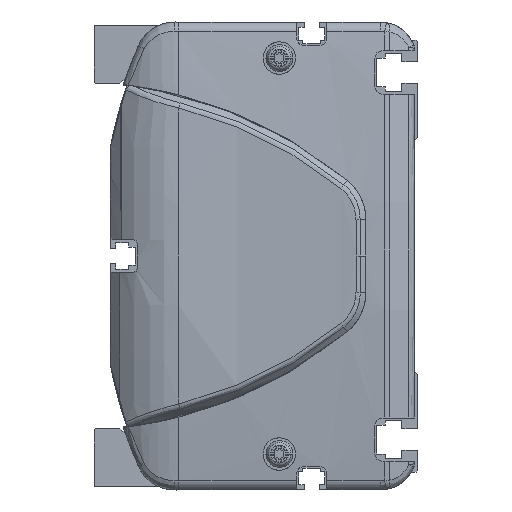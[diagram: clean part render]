
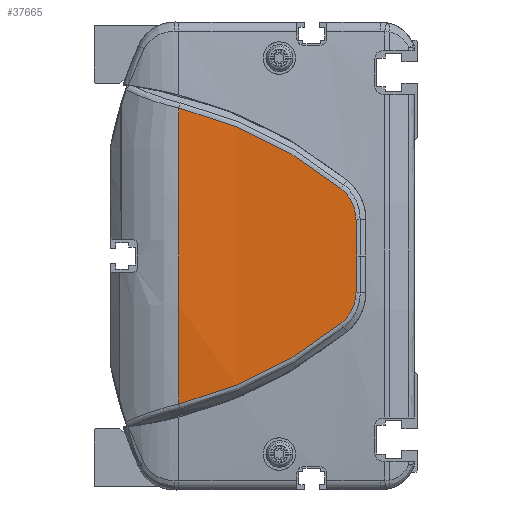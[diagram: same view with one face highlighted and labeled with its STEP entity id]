
A CAD part, left-side view. The second image highlights one B-rep face of the part: STEP entity #37665.
In plain terms, the highlighted cylindrical face has radius 500 mm (diameter 1000 mm), a partial arc.
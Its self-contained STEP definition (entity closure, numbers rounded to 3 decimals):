
#33907=CARTESIAN_POINT('',(486.,66.362,0.));
#33908=DIRECTION('',(0.,-1.,0.));
#33909=DIRECTION('',(-0.997,0.,0.082));
#33910=AXIS2_PLACEMENT_3D('',#33907,#33908,#33909);
#34784=CARTESIAN_POINT('',(-13.648,21.313,
-18.759));
#34785=CARTESIAN_POINT('',(-13.449,27.904,
-24.058));
#34786=CARTESIAN_POINT('',(-12.934,42.195,
-33.27));
#34787=CARTESIAN_POINT('',(-12.471,58.156,
-39.127));
#34788=CARTESIAN_POINT('',(-12.306,66.362,
-41.121));
#34790=CARTESIAN_POINT('',(-12.306,66.362,
41.121));
#34791=CARTESIAN_POINT('',(-12.471,58.156,
39.127));
#34792=CARTESIAN_POINT('',(-12.934,42.195,
33.27));
#34793=CARTESIAN_POINT('',(-13.449,27.904,
24.058));
#34794=CARTESIAN_POINT('',(-13.648,21.313,
18.759));
#34796=CARTESIAN_POINT('',(-13.648,21.313,
18.759));
#34797=CARTESIAN_POINT('',(-13.686,20.035,
17.736));
#34798=CARTESIAN_POINT('',(-13.779,17.936,
15.107));
#34799=CARTESIAN_POINT('',(-13.863,17.152,
11.827));
#34800=CARTESIAN_POINT('',(-13.896,17.124,
10.178));
#34802=CARTESIAN_POINT('',(-13.896,17.124,
10.178));
#34803=CARTESIAN_POINT('',(-13.92,17.107,
9.026));
#34804=CARTESIAN_POINT('',(-13.959,17.067,
6.735));
#34805=CARTESIAN_POINT('',(-13.993,16.98,
3.34));
#34806=CARTESIAN_POINT('',(-14.,16.898,
1.108));
#34807=CARTESIAN_POINT('',(-14.,16.849,
0.));
#34809=CARTESIAN_POINT('',(-14.,16.849,
0.));
#34810=CARTESIAN_POINT('',(-14.,16.898,
-1.108));
#34811=CARTESIAN_POINT('',(-13.993,16.98,
-3.341));
#34812=CARTESIAN_POINT('',(-13.959,17.067,
-6.734));
#34813=CARTESIAN_POINT('',(-13.92,17.107,
-9.028));
#34814=CARTESIAN_POINT('',(-13.896,17.124,
-10.18));
#34816=CARTESIAN_POINT('',(-13.896,17.124,
-10.18));
#34817=CARTESIAN_POINT('',(-13.863,17.152,
-11.828));
#34818=CARTESIAN_POINT('',(-13.779,17.937,
-15.109));
#34819=CARTESIAN_POINT('',(-13.686,20.035,
-17.736));
#34820=CARTESIAN_POINT('',(-13.648,21.313,
-18.759));
#35485=VERTEX_POINT('',#34784);
#35486=VERTEX_POINT('',#34788);
#35487=CARTESIAN_POINT('',(-12.306,66.362,
41.121));
#35488=VERTEX_POINT('',#35487);
#35489=VERTEX_POINT('',#34794);
#35490=VERTEX_POINT('',#34800);
#35491=VERTEX_POINT('',#34807);
#35492=VERTEX_POINT('',#34814);
#37646=CARTESIAN_POINT('',(486.,8.006,0.));
#37647=DIRECTION('',(0.,1.,0.));
#37648=DIRECTION('',(1.,0.,0.));
#37649=AXIS2_PLACEMENT_3D('',#37646,#37647,#37648);
#37650=CYLINDRICAL_SURFACE('',#37649,500.);
#37652=ORIENTED_EDGE('',*,*,#37651,.T.);
#37653=ORIENTED_EDGE('',*,*,#36286,.F.);
#37655=ORIENTED_EDGE('',*,*,#37654,.T.);
#37657=ORIENTED_EDGE('',*,*,#37656,.T.);
#37659=ORIENTED_EDGE('',*,*,#37658,.T.);
#37661=ORIENTED_EDGE('',*,*,#37660,.T.);
#37662=ORIENTED_EDGE('',*,*,#37636,.T.);
#37663=EDGE_LOOP('',(#37652,#37653,#37655,#37657,#37659,#37661,#37662));
#37664=FACE_OUTER_BOUND('',#37663,.F.);
#37665=ADVANCED_FACE('',(#37664),#37650,.T.);
#33911=CIRCLE('',#33910,500.);
#34789=B_SPLINE_CURVE_WITH_KNOTS('',3,(#34784,#34785,#34786,#34787,#34788),
.UNSPECIFIED.,.F.,.F.,(4,1,4),(0.,0.5,1.),.UNSPECIFIED.);
#34795=B_SPLINE_CURVE_WITH_KNOTS('',3,(#34790,#34791,#34792,#34793,#34794),
.UNSPECIFIED.,.F.,.F.,(4,1,4),(0.,0.5,1.),.UNSPECIFIED.);
#34801=B_SPLINE_CURVE_WITH_KNOTS('',3,(#34796,#34797,#34798,#34799,#34800),
.UNSPECIFIED.,.F.,.F.,(4,1,4),(0.,0.5,1.),.UNSPECIFIED.);
#34808=B_SPLINE_CURVE_WITH_KNOTS('',3,(#34802,#34803,#34804,#34805,#34806,
#34807),.UNSPECIFIED.,.F.,.F.,(4,1,1,4),(0.,0.333,
0.667,1.),.UNSPECIFIED.);
#34815=B_SPLINE_CURVE_WITH_KNOTS('',3,(#34809,#34810,#34811,#34812,#34813,
#34814),.UNSPECIFIED.,.F.,.F.,(4,1,1,4),(0.,0.333,
0.667,1.),.UNSPECIFIED.);
#34821=B_SPLINE_CURVE_WITH_KNOTS('',3,(#34816,#34817,#34818,#34819,#34820),
.UNSPECIFIED.,.F.,.F.,(4,1,4),(0.,0.5,1.),.UNSPECIFIED.);
#36286=EDGE_CURVE('',#35488,#35486,#33911,.T.);
#37636=EDGE_CURVE('',#35492,#35485,#34821,.T.);
#37651=EDGE_CURVE('',#35485,#35486,#34789,.T.);
#37654=EDGE_CURVE('',#35488,#35489,#34795,.T.);
#37656=EDGE_CURVE('',#35489,#35490,#34801,.T.);
#37658=EDGE_CURVE('',#35490,#35491,#34808,.T.);
#37660=EDGE_CURVE('',#35491,#35492,#34815,.T.);
